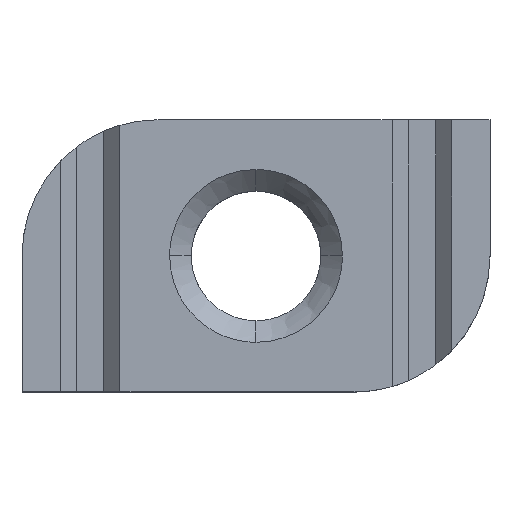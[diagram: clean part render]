
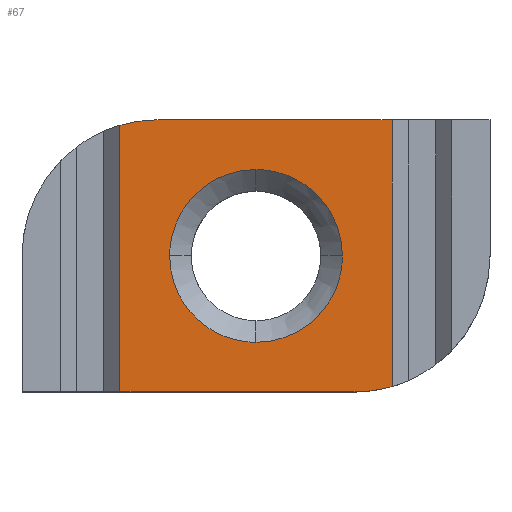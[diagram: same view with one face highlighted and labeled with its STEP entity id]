
A CAD part, top view. The second image highlights one B-rep face of the part: STEP entity #67.
In plain terms, the highlighted planar face has unit normal (0, 0, 1).
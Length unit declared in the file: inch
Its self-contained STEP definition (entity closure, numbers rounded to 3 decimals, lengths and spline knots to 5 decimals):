
#67=ADVANCED_FACE('',(#145,#146),#147,.F.);
#145=FACE_OUTER_BOUND('',#233,.T.);
#146=FACE_BOUND('',#234,.T.);
#147=PLANE('',#235);
#233=EDGE_LOOP('',(#702,#703,#704,#705,#706,#707));
#234=EDGE_LOOP('',(#708,#709,#710,#711));
#235=AXIS2_PLACEMENT_3D('',#712,#713,#714);
#702=ORIENTED_EDGE('',*,*,#887,.T.);
#703=ORIENTED_EDGE('',*,*,#853,.T.);
#704=ORIENTED_EDGE('',*,*,#880,.F.);
#705=ORIENTED_EDGE('',*,*,#885,.T.);
#706=ORIENTED_EDGE('',*,*,#888,.T.);
#707=ORIENTED_EDGE('',*,*,#861,.F.);
#708=ORIENTED_EDGE('',*,*,#889,.F.);
#709=ORIENTED_EDGE('',*,*,#890,.F.);
#710=ORIENTED_EDGE('',*,*,#891,.F.);
#711=ORIENTED_EDGE('',*,*,#892,.F.);
#712=CARTESIAN_POINT('',(0.67717,0.3937,0.31496));
#713=DIRECTION('',(0.0,0.0,-1.0));
#714=DIRECTION('',(1.0,0.0,0.0));
#853=EDGE_CURVE('',#957,#955,#958,.T.);
#861=EDGE_CURVE('',#968,#970,#971,.T.);
#880=EDGE_CURVE('',#1000,#955,#1002,.T.);
#885=EDGE_CURVE('',#1000,#1007,#1009,.T.);
#887=EDGE_CURVE('',#968,#957,#1011,.T.);
#888=EDGE_CURVE('',#1007,#970,#1012,.T.);
#889=EDGE_CURVE('',#1013,#1014,#1015,.T.);
#890=EDGE_CURVE('',#1016,#1013,#1017,.T.);
#891=EDGE_CURVE('',#1018,#1016,#1019,.T.);
#892=EDGE_CURVE('',#1014,#1018,#1020,.T.);
#955=VERTEX_POINT('',#1099);
#957=VERTEX_POINT('',#1102);
#958=LINE('',#1103,#1104);
#968=VERTEX_POINT('',#1118);
#970=VERTEX_POINT('',#1120);
#971=CIRCLE('',#1121,0.3937);
#1000=VERTEX_POINT('',#1159);
#1002=CIRCLE('',#1161,0.3937);
#1007=VERTEX_POINT('',#1167);
#1009=LINE('',#1170,#1171);
#1011=LINE('',#1173,#1174);
#1012=LINE('',#1175,#1176);
#1013=VERTEX_POINT('',#1177);
#1014=VERTEX_POINT('',#1178);
#1015=B_SPLINE_CURVE_WITH_KNOTS('',3,(#1179,#1180,#1181,#1182,#1183,#1184,#1185,#1186,#1187,#1188,#1189,#1190,#1191,#1192),.UNSPECIFIED.,.F.,.F.,(4,2,2,2,2,2,4),(0.0,1.3188,2.60185,4.96263,5.08387,7.49862,9.92527),.UNSPECIFIED.);
#1016=VERTEX_POINT('',#1193);
#1017=B_SPLINE_CURVE_WITH_KNOTS('',3,(#1194,#1195,#1196,#1197,#1198,#1199,#1200,#1201,#1202,#1203,#1204,#1205,#1206,#1207),.UNSPECIFIED.,.F.,.F.,(4,2,2,2,2,2,4),(0.0,2.42668,4.84143,4.95663,7.32344,9.82745,9.91326),.UNSPECIFIED.);
#1018=VERTEX_POINT('',#1208);
#1019=B_SPLINE_CURVE_WITH_KNOTS('',3,(#1209,#1210,#1211,#1212,#1213,#1214,#1215,#1216,#1217,#1218),.UNSPECIFIED.,.F.,.F.,(4,2,2,2,4),(0.0,2.47178,4.9558,7.43982,9.9116),.UNSPECIFIED.);
#1020=B_SPLINE_CURVE_WITH_KNOTS('',3,(#1219,#1220,#1221,#1222,#1223,#1224,#1225,#1226,#1227,#1228,#1229,#1230,#1231,#1232),.UNSPECIFIED.,.F.,.F.,(4,2,2,2,2,2,4),(0.0,0.0859,2.58993,4.95659,5.07173,7.48632,9.91317),.UNSPECIFIED.);
#1099=CARTESIAN_POINT('',(0.3937,0.7874,0.31496));
#1102=CARTESIAN_POINT('',(1.07087,0.7874,0.31496));
#1103=CARTESIAN_POINT('',(1.35433,0.7874,0.31496));
#1104=VECTOR('',#1376,0.3937);
#1118=CARTESIAN_POINT('',(1.07087,0.01575,0.31496));
#1120=CARTESIAN_POINT('',(0.96063,0.,0.31496));
#1121=AXIS2_PLACEMENT_3D('',#1387,#1388,#1389);
#1159=CARTESIAN_POINT('',(0.28346,0.77165,0.31496));
#1161=AXIS2_PLACEMENT_3D('',#1414,#1415,#1416);
#1167=CARTESIAN_POINT('',(0.28346,0.,0.31496));
#1170=CARTESIAN_POINT('',(0.28346,0.19685,0.31496));
#1171=VECTOR('',#1422,0.3937);
#1173=CARTESIAN_POINT('',(1.07087,0.19685,0.31496));
#1174=VECTOR('',#1423,0.3937);
#1175=CARTESIAN_POINT('',(0.,0.,0.31496));
#1176=VECTOR('',#1424,0.3937);
#1177=CARTESIAN_POINT('',(0.67717,0.14369,0.31496));
#1178=CARTESIAN_POINT('',(0.92717,0.3937,0.31496));
#1179=CARTESIAN_POINT('',(0.67717,0.14369,0.31496));
#1180=CARTESIAN_POINT('',(0.69447,0.14369,0.31496));
#1181=CARTESIAN_POINT('',(0.71187,0.14549,0.31496));
#1182=CARTESIAN_POINT('',(0.74529,0.15251,0.31496));
#1183=CARTESIAN_POINT('',(0.76149,0.15769,0.31496));
#1184=CARTESIAN_POINT('',(0.80533,0.17678,0.31496));
#1185=CARTESIAN_POINT('',(0.83185,0.19486,0.31496));
#1186=CARTESIAN_POINT('',(0.85494,0.21792,0.31496));
#1187=CARTESIAN_POINT('',(0.85605,0.21905,0.31496));
#1188=CARTESIAN_POINT('',(0.87915,0.24301,0.31496));
#1189=CARTESIAN_POINT('',(0.89707,0.27054,0.31496));
#1190=CARTESIAN_POINT('',(0.92091,0.32943,0.31496));
#1191=CARTESIAN_POINT('',(0.92717,0.36185,0.31496));
#1192=CARTESIAN_POINT('',(0.92717,0.3937,0.31496));
#1193=CARTESIAN_POINT('',(0.42717,0.3937,0.31496));
#1194=CARTESIAN_POINT('',(0.42717,0.3937,0.31496));
#1195=CARTESIAN_POINT('',(0.42717,0.36185,0.31496));
#1196=CARTESIAN_POINT('',(0.43342,0.32943,0.31496));
#1197=CARTESIAN_POINT('',(0.45726,0.27054,0.31496));
#1198=CARTESIAN_POINT('',(0.47518,0.24301,0.31496));
#1199=CARTESIAN_POINT('',(0.49822,0.21911,0.31496));
#1200=CARTESIAN_POINT('',(0.49928,0.21803,0.31496));
#1201=CARTESIAN_POINT('',(0.52235,0.19495,0.31496));
#1202=CARTESIAN_POINT('',(0.54892,0.17682,0.31496));
#1203=CARTESIAN_POINT('',(0.60753,0.15129,0.31496));
#1204=CARTESIAN_POINT('',(0.64093,0.14415,0.31496));
#1205=CARTESIAN_POINT('',(0.67491,0.1437,0.31496));
#1206=CARTESIAN_POINT('',(0.67604,0.14369,0.31496));
#1207=CARTESIAN_POINT('',(0.67717,0.14369,0.31496));
#1208=CARTESIAN_POINT('',(0.67717,0.6437,0.31496));
#1209=CARTESIAN_POINT('',(0.67717,0.6437,0.31496));
#1210=CARTESIAN_POINT('',(0.64473,0.6437,0.31496));
#1211=CARTESIAN_POINT('',(0.61168,0.6372,0.31496));
#1212=CARTESIAN_POINT('',(0.55158,0.61236,0.31496));
#1213=CARTESIAN_POINT('',(0.52344,0.59353,0.31496));
#1214=CARTESIAN_POINT('',(0.47734,0.54743,0.31496));
#1215=CARTESIAN_POINT('',(0.45851,0.51929,0.31496));
#1216=CARTESIAN_POINT('',(0.43366,0.45919,0.31496));
#1217=CARTESIAN_POINT('',(0.42717,0.42614,0.31496));
#1218=CARTESIAN_POINT('',(0.42717,0.3937,0.31496));
#1219=CARTESIAN_POINT('',(0.92717,0.3937,0.31496));
#1220=CARTESIAN_POINT('',(0.92717,0.39483,0.31496));
#1221=CARTESIAN_POINT('',(0.92716,0.39596,0.31496));
#1222=CARTESIAN_POINT('',(0.92671,0.42994,0.31496));
#1223=CARTESIAN_POINT('',(0.91957,0.46334,0.31496));
#1224=CARTESIAN_POINT('',(0.89404,0.52194,0.31496));
#1225=CARTESIAN_POINT('',(0.87591,0.54852,0.31496));
#1226=CARTESIAN_POINT('',(0.85284,0.57158,0.31496));
#1227=CARTESIAN_POINT('',(0.85176,0.57264,0.31496));
#1228=CARTESIAN_POINT('',(0.82786,0.59569,0.31496));
#1229=CARTESIAN_POINT('',(0.80033,0.6136,0.31496));
#1230=CARTESIAN_POINT('',(0.74144,0.63745,0.31496));
#1231=CARTESIAN_POINT('',(0.70901,0.6437,0.31496));
#1232=CARTESIAN_POINT('',(0.67717,0.6437,0.31496));
#1376=DIRECTION('',(-1.0,0.0,0.0));
#1387=CARTESIAN_POINT('',(0.96063,0.3937,0.31496));
#1388=DIRECTION('',(0.0,0.0,-1.0));
#1389=DIRECTION('',(0.707,-0.707,0.0));
#1414=CARTESIAN_POINT('',(0.3937,0.3937,0.31496));
#1415=DIRECTION('',(0.0,0.0,-1.0));
#1416=DIRECTION('',(-0.707,0.707,0.0));
#1422=DIRECTION('',(0.0,-1.0,0.0));
#1423=DIRECTION('',(0.0,1.0,0.0));
#1424=DIRECTION('',(1.0,0.0,0.0));
